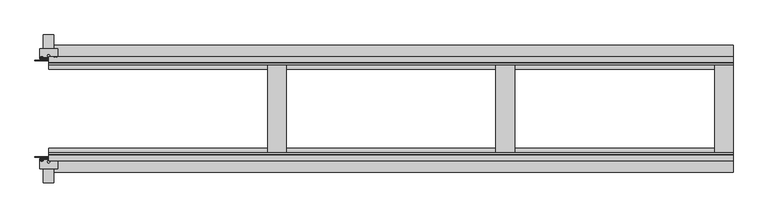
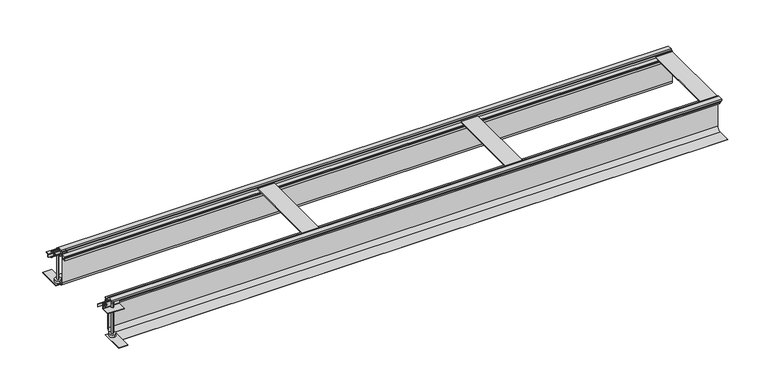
"""IFC4 building model written with IfcOpenShell, lengths in millimetres: proxy geometry."""

from ifc_helpers import new_model, si_unit, point, frame, frame_2d, origin, place, context, project, spatial, polyline, circle_curve, ellipse_curve, trimmed, segment, composite_curve, outline, extrude, source, transform, mapped, element, save
from ifc_brep_helpers import plane_surface, cylinder_surface, revolved_surface, advanced_brep


def electrical_fixtures_af4d04ae(model_context):
    return source(origin(), model_context, "Body", "SolidModel", [
        advanced_brep(
        [(-19.209696, -181.6418922, 3.3), (-28.790304, -181.6418922, 3.3), (-28.790304, -179.7, 3.3), (-19.209696, -179.7, 3.3), (-26.562969, -179.7, 3.3), (-21.437031, -179.7, 3.3), (-26.562969, -167.7, 3.3), (-21.437031, -167.7, 3.3), (-24.0, -167.7, 3.3), (-24.0, -183.3479209, 3.3)],
        [
            (0, 1, circle_curve(frame((-24.0, -181.6418922, 3.3), z_axis=(0.0, 1.0, 0.0), x_axis=(-1.0, 0.0, 0.0)), 4.790304)),
            (1, 2),
            (2, 3, circle_curve(frame((-24.0, -179.7, 3.3), z_axis=(0.0, -1.0, 0.0), x_axis=(-1.0, 0.0, 0.0)), 4.790304)),
            (3, 0),
            (1, 0, circle_curve(frame((-24.0, -181.6418922, 3.3), z_axis=(0.0, 1.0, 0.0), x_axis=(-1.0, 0.0, 0.0)), 4.790304)),
            (3, 2, circle_curve(frame((-24.0, -179.7, 3.3), z_axis=(0.0, -1.0, 0.0), x_axis=(-1.0, 0.0, 0.0)), 4.790304)),
            (2, 4),
            (4, 5, circle_curve(frame((-24.0, -179.7, 3.3), z_axis=(0.0, -1.0, 0.0), x_axis=(-1.0, 0.0, 0.0)), 2.562969)),
            (5, 3),
            (5, 4, circle_curve(frame((-24.0, -179.7, 3.3), z_axis=(0.0, -1.0, 0.0), x_axis=(-1.0, 0.0, 0.0)), 2.562969)),
            (4, 6),
            (6, 7, circle_curve(frame((-24.0, -167.7, 3.3), z_axis=(0.0, -1.0, 0.0), x_axis=(-1.0, 0.0, 0.0)), 2.562969)),
            (7, 5),
            (7, 6, circle_curve(frame((-24.0, -167.7, 3.3), z_axis=(0.0, -1.0, 0.0), x_axis=(-1.0, 0.0, 0.0)), 2.562969)),
            (6, 8),
            (8, 7),
            (9, 1, circle_curve(frame((-24.0319066, -175.8592246, 3.3), z_axis=(0.0, 0.0, -1.0), x_axis=(-1.0, 0.0, 0.0)), 7.4887643)),
            (0, 9, circle_curve(frame((-23.9680934, -175.8592246, 3.3), z_axis=(0.0, 0.0, -1.0), x_axis=(1.0, 0.0, 0.0)), 7.4887643)),
        ],
        [
            cylinder_surface(frame((-24.0, -179.2950786, 3.3), z_axis=(0.0, -1.0, 0.0), x_axis=(-1.0, 0.0, 0.0)), 4.790304),
            plane_surface(frame((-24.0, -179.7, 3.3), z_axis=(0.0, 1.0, 0.0), x_axis=(-1.0, 0.0, 0.0))),
            cylinder_surface(frame((-24.0, -179.2950786, 3.3), z_axis=(0.0, -1.0, 0.0), x_axis=(-1.0, 0.0, 0.0)), 2.562969),
            plane_surface(frame((-24.0, -167.7, 3.3), z_axis=(0.0, 1.0, 0.0), x_axis=(-1.0, 0.0, 0.0))),
            revolved_surface(trimmed(ellipse_curve(frame((-24.0319066, -175.8592246, 3.3), z_axis=(0.0, 0.0, 1.0), x_axis=(-1.0, 0.0, 0.0)), 7.4887643, 7.4887643), [point((-28.790304, -181.6418922, 3.3))], [point((-24.0, -183.3479209, 3.3))], True, "CARTESIAN"), (-24.0, -179.2950786, 3.3), (0.0, -1.0, 0.0)),
        ],
        [
            (0, [[1, 2, 3, 4]]),
            (0, [[5, -4, 6, -2]]),
            (1, [[-3, 7, 8, 9]]),
            (1, [[-6, -9, 10, -7]]),
            (2, [[-8, 11, 12, 13]]),
            (2, [[-10, -13, 14, -11]]),
            (3, [[-12, 15, 16]]),
            (3, [[-14, -16, -15]]),
            (4, [[17, -1, 18]]),
            (4, [[-18, -5, -17]]),
        ],
    ),
        advanced_brep(
        [(29.0575247, 179.7, 3.3), (19.4769168, 179.7, 3.3), (19.4769168, 181.6418922, 3.3), (29.0575247, 181.6418922, 3.3), (26.8301898, 179.7, 3.3), (21.7042517, 179.7, 3.3), (26.8301898, 167.7, 3.3), (21.7042517, 167.7, 3.3), (24.2672208, 167.7, 3.3), (24.2672208, 183.3479209, 3.3)],
        [
            (0, 1, circle_curve(frame((24.2672208, 179.7, 3.3), z_axis=(0.0, 1.0, 0.0), x_axis=(-1.0, 0.0, 0.0)), 4.790304)),
            (1, 2),
            (2, 3, circle_curve(frame((24.2672208, 181.6418922, 3.3), z_axis=(0.0, -1.0, 0.0), x_axis=(-1.0, 0.0, 0.0)), 4.790304)),
            (3, 0),
            (1, 0, circle_curve(frame((24.2672208, 179.7, 3.3), z_axis=(0.0, 1.0, 0.0), x_axis=(-1.0, 0.0, 0.0)), 4.790304)),
            (3, 2, circle_curve(frame((24.2672208, 181.6418922, 3.3), z_axis=(0.0, -1.0, 0.0), x_axis=(-1.0, 0.0, 0.0)), 4.790304)),
            (4, 5, circle_curve(frame((24.2672208, 179.7, 3.3), z_axis=(0.0, 1.0, 0.0), x_axis=(-1.0, 0.0, 0.0)), 2.562969)),
            (5, 1),
            (0, 4),
            (5, 4, circle_curve(frame((24.2672208, 179.7, 3.3), z_axis=(0.0, 1.0, 0.0), x_axis=(-1.0, 0.0, 0.0)), 2.562969)),
            (6, 7, circle_curve(frame((24.2672208, 167.7, 3.3), z_axis=(0.0, 1.0, 0.0), x_axis=(-1.0, 0.0, 0.0)), 2.562969)),
            (7, 5),
            (4, 6),
            (7, 6, circle_curve(frame((24.2672208, 167.7, 3.3), z_axis=(0.0, 1.0, 0.0), x_axis=(-1.0, 0.0, 0.0)), 2.562969)),
            (8, 7),
            (6, 8),
            (2, 9, circle_curve(frame((24.2353142, 175.8592246, 3.3), z_axis=(0.0, 0.0, -1.0), x_axis=(-1.0, 0.0, 0.0)), 7.4887643)),
            (9, 3, circle_curve(frame((24.2991274, 175.8592246, 3.3), z_axis=(0.0, 0.0, -1.0), x_axis=(1.0, 0.0, 0.0)), 7.4887643)),
        ],
        [
            cylinder_surface(frame((24.2672208, 179.2950786, 3.3), z_axis=(0.0, -1.0, 0.0), x_axis=(-1.0, 0.0, 0.0)), 4.790304),
            plane_surface(frame((24.2672208, 179.7, 3.3), z_axis=(0.0, -1.0, 0.0), x_axis=(-1.0, 0.0, 0.0))),
            cylinder_surface(frame((24.2672208, 179.2950786, 3.3), z_axis=(0.0, -1.0, 0.0), x_axis=(-1.0, 0.0, 0.0)), 2.562969),
            plane_surface(frame((24.2672208, 167.7, 3.3), z_axis=(0.0, -1.0, 0.0), x_axis=(-1.0, 0.0, 0.0))),
            revolved_surface(trimmed(ellipse_curve(frame((24.2353142, 175.8592246, 3.3), z_axis=(0.0, 0.0, 1.0), x_axis=(-1.0, 0.0, 0.0)), 7.4887643, 7.4887643), [point((24.2672208, 183.3479209, 3.3))], [point((19.4769168, 181.6418922, 3.3))], True, "CARTESIAN"), (24.2672208, 179.2950786, 3.3), (0.0, -1.0, 0.0)),
        ],
        [
            (0, [[1, 2, 3, 4]]),
            (0, [[5, -4, 6, -2]]),
            (1, [[7, 8, -1, 9]]),
            (1, [[10, -9, -5, -8]]),
            (2, [[11, 12, -7, 13]]),
            (2, [[14, -13, -10, -12]]),
            (3, [[15, -11, 16]]),
            (3, [[-16, -14, -15]]),
            (4, [[-3, 17, 18]]),
            (4, [[-6, -18, -17]]),
        ],
    ),
        advanced_brep(
        [(-19.209696, 179.7, 3.3), (-28.790304, 179.7, 3.3), (-28.790304, 181.6418922, 3.3), (-19.209696, 181.6418922, 3.3), (-21.437031, 179.7, 3.3), (-26.562969, 179.7, 3.3), (-21.437031, 167.7, 3.3), (-26.562969, 167.7, 3.3), (-24.0, 167.7, 3.3), (-24.0, 183.3479209, 3.3)],
        [
            (0, 1, circle_curve(frame((-24.0, 179.7, 3.3), z_axis=(0.0, 1.0, 0.0), x_axis=(-1.0, 0.0, 0.0)), 4.790304)),
            (1, 2),
            (2, 3, circle_curve(frame((-24.0, 181.6418922, 3.3), z_axis=(0.0, -1.0, 0.0), x_axis=(-1.0, 0.0, 0.0)), 4.790304)),
            (3, 0),
            (1, 0, circle_curve(frame((-24.0, 179.7, 3.3), z_axis=(0.0, 1.0, 0.0), x_axis=(-1.0, 0.0, 0.0)), 4.790304)),
            (3, 2, circle_curve(frame((-24.0, 181.6418922, 3.3), z_axis=(0.0, -1.0, 0.0), x_axis=(-1.0, 0.0, 0.0)), 4.790304)),
            (4, 5, circle_curve(frame((-24.0, 179.7, 3.3), z_axis=(0.0, 1.0, 0.0), x_axis=(-1.0, 0.0, 0.0)), 2.562969)),
            (5, 1),
            (0, 4),
            (5, 4, circle_curve(frame((-24.0, 179.7, 3.3), z_axis=(0.0, 1.0, 0.0), x_axis=(-1.0, 0.0, 0.0)), 2.562969)),
            (6, 7, circle_curve(frame((-24.0, 167.7, 3.3), z_axis=(0.0, 1.0, 0.0), x_axis=(-1.0, 0.0, 0.0)), 2.562969)),
            (7, 5),
            (4, 6),
            (7, 6, circle_curve(frame((-24.0, 167.7, 3.3), z_axis=(0.0, 1.0, 0.0), x_axis=(-1.0, 0.0, 0.0)), 2.562969)),
            (8, 7),
            (6, 8),
            (2, 9, circle_curve(frame((-24.0319066, 175.8592246, 3.3), z_axis=(0.0, 0.0, -1.0), x_axis=(-1.0, 0.0, 0.0)), 7.4887643)),
            (9, 3, circle_curve(frame((-23.9680934, 175.8592246, 3.3), z_axis=(0.0, 0.0, -1.0), x_axis=(1.0, 0.0, 0.0)), 7.4887643)),
        ],
        [
            cylinder_surface(frame((-24.0, 179.2950786, 3.3), z_axis=(0.0, -1.0, 0.0), x_axis=(-1.0, 0.0, 0.0)), 4.790304),
            plane_surface(frame((-24.0, 179.7, 3.3), z_axis=(0.0, -1.0, 0.0), x_axis=(-1.0, 0.0, 0.0))),
            cylinder_surface(frame((-24.0, 179.2950786, 3.3), z_axis=(0.0, -1.0, 0.0), x_axis=(-1.0, 0.0, 0.0)), 2.562969),
            plane_surface(frame((-24.0, 167.7, 3.3), z_axis=(0.0, -1.0, 0.0), x_axis=(-1.0, 0.0, 0.0))),
            revolved_surface(trimmed(ellipse_curve(frame((-24.0319066, 175.8592246, 3.3), z_axis=(0.0, 0.0, 1.0), x_axis=(-1.0, 0.0, 0.0)), 7.4887643, 7.4887643), [point((-24.0, 183.3479209, 3.3))], [point((-28.790304, 181.6418922, 3.3))], True, "CARTESIAN"), (-24.0, 179.2950786, 3.3), (0.0, -1.0, 0.0)),
        ],
        [
            (0, [[1, 2, 3, 4]]),
            (0, [[5, -4, 6, -2]]),
            (1, [[7, 8, -1, 9]]),
            (1, [[10, -9, -5, -8]]),
            (2, [[11, 12, -7, 13]]),
            (2, [[14, -13, -10, -12]]),
            (3, [[15, -11, 16]]),
            (3, [[-16, -14, -15]]),
            (4, [[-3, 17, 18]]),
            (4, [[-6, -18, -17]]),
        ],
    ),
        extrude(outline(polyline([(-48.0, 167.7), (-48.0, 170.7), (48.0, 170.7), (48.0, 167.7), (-48.0, 167.7)])), frame((0.0, 0.0, -1.7), z_axis=(0.0, 0.0, 1.0), x_axis=(1.0, 0.0, 0.0)), (0.0, 0.0, 1.0), 10.0),
        extrude(outline(polyline([(-48.0, -170.7), (-48.0, -167.7), (48.0, -167.7), (48.0, -170.7), (-48.0, -170.7)])), frame((0.0, 0.0, -1.7), z_axis=(0.0, 0.0, 1.0), x_axis=(1.0, 0.0, 0.0)), (0.0, 0.0, 1.0), 10.0),
        extrude(outline(composite_curve([segment(polyline([(175.6, 11.7), (177.6, 11.7), (177.6, -10.3088822)]), True, "CONTINUOUS"), segment(trimmed(circle_curve(frame_2d((178.5911178, -10.3088822)), 0.9911178), [point((177.6, -10.3088822))], [point((178.5911178, -11.3))], True, "CARTESIAN"), True, "CONTINUOUS"), segment(polyline([(178.5911178, -11.3), (210.6, -11.3), (210.6, -13.3), (178.6002521, -13.3)]), True, "CONTINUOUS"), segment(trimmed(circle_curve(frame_2d((178.6002521, -10.2997479)), 3.0002521), [point((178.6002521, -13.3))], [point((175.6, -10.2997479))], False, "CARTESIAN"), True, "CONTINUOUS"), segment(polyline([(175.6, -10.2997479), (175.6, 11.7)]), True, "CONTINUOUS")], self_intersect=False)), frame((-31.7, 0.0, 0.0), z_axis=(1.0, 0.0, 0.0), x_axis=(0.0, 1.0, 0.0)), (0.0, 0.0, 1.0), 63.4),
        extrude(outline(composite_curve([segment(polyline([(-175.6, 11.7), (-175.6, -10.2997479)]), True, "CONTINUOUS"), segment(trimmed(circle_curve(frame_2d((-178.6002521, -10.2997479)), 3.0002521), [point((-175.6, -10.2997479))], [point((-178.6002521, -13.3))], False, "CARTESIAN"), True, "CONTINUOUS"), segment(polyline([(-178.6002521, -13.3), (-210.6, -13.3), (-210.6, -11.3), (-178.5911178, -11.3)]), True, "CONTINUOUS"), segment(trimmed(circle_curve(frame_2d((-178.5911178, -10.3088822)), 0.9911178), [point((-178.5911178, -11.3))], [point((-177.6, -10.3088822))], True, "CARTESIAN"), True, "CONTINUOUS"), segment(polyline([(-177.6, -10.3088822), (-177.6, 11.7), (-175.6, 11.7)]), True, "CONTINUOUS")], self_intersect=False)), frame((-31.7, 0.0, 0.0), z_axis=(1.0, 0.0, 0.0), x_axis=(0.0, 1.0, 0.0)), (0.0, 0.0, 1.0), 63.4),
        extrude(outline(composite_curve([segment(trimmed(circle_curve(frame_2d((0.0, 186.1712378)), 3.9923162), [point((0.0, 190.163554))], [point((0.0, 182.1789216))], False, "CARTESIAN"), True, "CONTINUOUS"), segment(trimmed(circle_curve(frame_2d((0.0, 186.1712378)), 3.9923162), [point((0.0, 182.1789216))], [point((0.0, 190.163554))], False, "CARTESIAN"), True, "CONTINUOUS")], self_intersect=False)), frame((0.0, 0.0, -119.0), z_axis=(0.0, 0.0, 1.0), x_axis=(1.0, 0.0, 0.0)), (0.0, 0.0, 1.0), 126.8),
        extrude(outline(composite_curve([segment(trimmed(circle_curve(frame_2d((0.0, -186.0787011)), 3.991847), [point((0.0, -182.0868541))], [point((0.0, -190.0705482))], False, "CARTESIAN"), True, "CONTINUOUS"), segment(trimmed(circle_curve(frame_2d((0.0, -186.0787011)), 3.991847), [point((0.0, -190.0705482))], [point((0.0, -182.0868541))], False, "CARTESIAN"), True, "CONTINUOUS")], self_intersect=False)), frame((0.0, 0.0, -119.0), z_axis=(0.0, 0.0, 1.0), x_axis=(1.0, 0.0, 0.0)), (0.0, 0.0, 1.0), 126.8),
        extrude(outline(composite_curve([segment(trimmed(circle_curve(frame_2d((0.0, 186.1652527)), 12.0), [point((0.0, 198.1652527))], [point((0.0, 174.1652527))], False, "CARTESIAN"), True, "CONTINUOUS"), segment(trimmed(circle_curve(frame_2d((0.0, 186.1652527)), 12.0), [point((0.0, 174.1652527))], [point((0.0, 198.1652527))], False, "CARTESIAN"), True, "CONTINUOUS")], self_intersect=False)), frame((0.0, 0.0, -129.7), z_axis=(0.0, 0.0, 1.0), x_axis=(1.0, 0.0, 0.0)), (0.0, 0.0, 1.0), 10.7),
        extrude(outline(composite_curve([segment(trimmed(circle_curve(frame_2d((0.0, -186.112037)), 12.0), [point((0.0, -174.112037))], [point((0.0, -198.112037))], False, "CARTESIAN"), True, "CONTINUOUS"), segment(trimmed(circle_curve(frame_2d((0.0, -186.112037)), 12.0), [point((0.0, -198.112037))], [point((0.0, -174.112037))], False, "CARTESIAN"), True, "CONTINUOUS")], self_intersect=False)), frame((0.0, 0.0, -129.7), z_axis=(0.0, 0.0, 1.0), x_axis=(1.0, 0.0, 0.0)), (0.0, 0.0, 1.0), 10.7),
        extrude(outline(polyline([(18.0, 169.1), (-18.0, 169.1), (-18.0, 259.1), (18.0, 259.1), (18.0, 169.1)])), frame((0.0, 0.0, -131.2), z_axis=(0.0, 0.0, 1.0), x_axis=(1.0, 0.0, 0.0)), (0.0, 0.0, 1.0), 1.5),
        extrude(outline(polyline([(18.0, -259.1), (-18.0, -259.1), (-18.0, -169.1), (18.0, -169.1), (18.0, -259.1)])), frame((0.0, 0.0, -131.2), z_axis=(0.0, 0.0, 1.0), x_axis=(1.0, 0.0, 0.0)), (0.0, 0.0, 1.0), 1.5),
        extrude(outline(polyline([(2400.0, 155.0), (2400.0, -155.0), (2335.0, -155.0), (2335.0, 155.0), (2400.0, 155.0)])), frame((0.0, 0.0, 2.5), z_axis=(0.0, 0.0, 1.0), x_axis=(1.0, 0.0, 0.0)), (0.0, 0.0, 1.0), 4.2),
        extrude(outline(polyline([(1633.5851476, 154.8), (1633.5851476, -154.8), (1568.585332, -154.8), (1568.585332, 154.8), (1633.5851476, 154.8)])), frame((0.0, 0.0, 2.5), z_axis=(0.0, 0.0, 1.0), x_axis=(1.0, 0.0, 0.0)), (0.0, 0.0, 1.0), 4.2),
        extrude(outline(polyline([(833.5851476, 154.8), (833.5851476, -154.8), (768.585332, -154.8), (768.585332, 154.8), (833.5851476, 154.8)])), frame((0.0, 0.0, 2.5), z_axis=(0.0, 0.0, 1.0), x_axis=(1.0, 0.0, 0.0)), (0.0, 0.0, 1.0), 4.2),
        extrude(outline(polyline([(183.0, 6.7), (165.0, 6.7), (165.0, -2.5), (175.475, -2.5), (175.475, -4.0), (169.6, -4.0), (169.6, -14.0), (168.1, -14.0), (168.1, -4.0), (160.1, -4.0), (160.1, -10.1), (148.3, -10.1), (148.3, -14.0), (138.1, -14.0), (138.1, -6.6607064), (141.0, -6.6607064), (141.0, -12.5), (145.7, -12.5), (145.7, 0.5), (141.0, 0.5), (141.0, -2.1), (137.9910979, -2.1), (137.9910979, 2.5), (154.8, 2.5), (154.8, 10.0), (160.0, 10.0), (160.0, -0.5), (163.0, -0.5), (163.0, 13.0), (183.0, 13.0), (183.0, 6.7)])), frame((0.0, 0.0, 0.0), z_axis=(1.0, 0.0, 0.0), x_axis=(0.0, 1.0, 0.0)), (0.0, 0.0, 1.0), 2400.0),
        extrude(outline(polyline([(-183.0, 6.7), (-183.0, 13.0), (-163.0, 13.0), (-163.0, -0.5), (-160.0, -0.5), (-160.0, 10.0), (-154.8, 10.0), (-154.8, 2.5), (-137.9910979, 2.5), (-137.9910979, -2.1), (-141.0, -2.1), (-141.0, 0.5), (-145.7, 0.5), (-145.7, -12.5), (-141.0, -12.5), (-141.0, -6.6607064), (-138.1, -6.6607064), (-138.1, -14.0), (-148.3, -14.0), (-148.3, -10.1), (-160.1, -10.1), (-160.1, -4.0), (-168.1, -4.0), (-168.1, -14.0), (-169.6, -14.0), (-169.6, -4.0), (-175.475, -4.0), (-175.475, -2.5), (-165.0, -2.5), (-165.0, 6.7), (-183.0, 6.7)])), frame((0.0, 0.0, 0.0), z_axis=(1.0, 0.0, 0.0), x_axis=(0.0, 1.0, 0.0)), (0.0, 0.0, 1.0), 2400.0),
        extrude(outline(composite_curve([segment(polyline([(155.1407967, -1.2), (155.9257245, -1.2), (155.9257245, -116.2)]), True, "CONTINUOUS"), segment(trimmed(circle_curve(frame_2d((170.9257245, -116.2)), 15.0), [point((155.9257245, -116.2))], [point((170.9257245, -131.2))], True, "CARTESIAN"), True, "CONTINUOUS"), segment(polyline([(170.9257245, -131.2), (222.2934005, -131.2), (222.2934005, -131.9992624), (170.1407967, -131.9992624)]), True, "CONTINUOUS"), segment(trimmed(circle_curve(frame_2d((170.1407967, -116.9992624)), 15.0), [point((170.1407967, -131.9992624))], [point((155.1407967, -116.9992624))], False, "CARTESIAN"), True, "CONTINUOUS"), segment(polyline([(155.1407967, -116.9992624), (155.1407967, -1.2)]), True, "CONTINUOUS")], self_intersect=False)), frame((0.0, 0.0, 0.0), z_axis=(1.0, 0.0, 0.0), x_axis=(0.0, 1.0, 0.0)), (0.0, 0.0, 1.0), 2400.0),
        extrude(outline(composite_curve([segment(polyline([(-155.1407967, -1.2), (-155.1407967, -116.9992624)]), True, "CONTINUOUS"), segment(trimmed(circle_curve(frame_2d((-170.1407967, -116.9992624)), 15.0), [point((-155.1407967, -116.9992624))], [point((-170.1407967, -131.9992624))], False, "CARTESIAN"), True, "CONTINUOUS"), segment(polyline([(-170.1407967, -131.9992624), (-222.2934005, -131.9992624), (-222.2934005, -131.2), (-170.9257245, -131.2)]), True, "CONTINUOUS"), segment(trimmed(circle_curve(frame_2d((-170.9257245, -116.2)), 15.0), [point((-170.9257245, -131.2))], [point((-155.9257245, -116.2))], True, "CARTESIAN"), True, "CONTINUOUS"), segment(polyline([(-155.9257245, -116.2), (-155.9257245, -1.2), (-155.1407967, -1.2)]), True, "CONTINUOUS")], self_intersect=False)), frame((0.0, 0.0, 0.0), z_axis=(1.0, 0.0, 0.0), x_axis=(0.0, 1.0, 0.0)), (0.0, 0.0, 1.0), 2400.0),
    ])


if __name__ == "__main__":
    model = new_model("IFC4")
    model_context = context("Model", 3, world=origin())
    ifc_project = project(units=[si_unit("LENGTHUNIT", "METRE", prefix="MILLI")], contexts=[model_context])
    site = spatial("IfcSite", under=ifc_project)
    building = spatial("IfcBuilding", under=site)
    placement = place(None, origin())
    electrical_fixtures_shape = electrical_fixtures_af4d04ae(model_context)
    element("IfcBuildingElementProxy", 1, Name="Electrical Fixtures", at=placement, inside=building, context=model_context, shape_type="MappedRepresentation", body=[
        mapped(electrical_fixtures_shape, transform((0.0, 0.0, 0.0), x_axis=(1.0, 0.0, 0.0), y_axis=(0.0, 1.0, 0.0), z_axis=(0.0, 0.0, 1.0))),
    ])
    save(model, "model.ifc")
